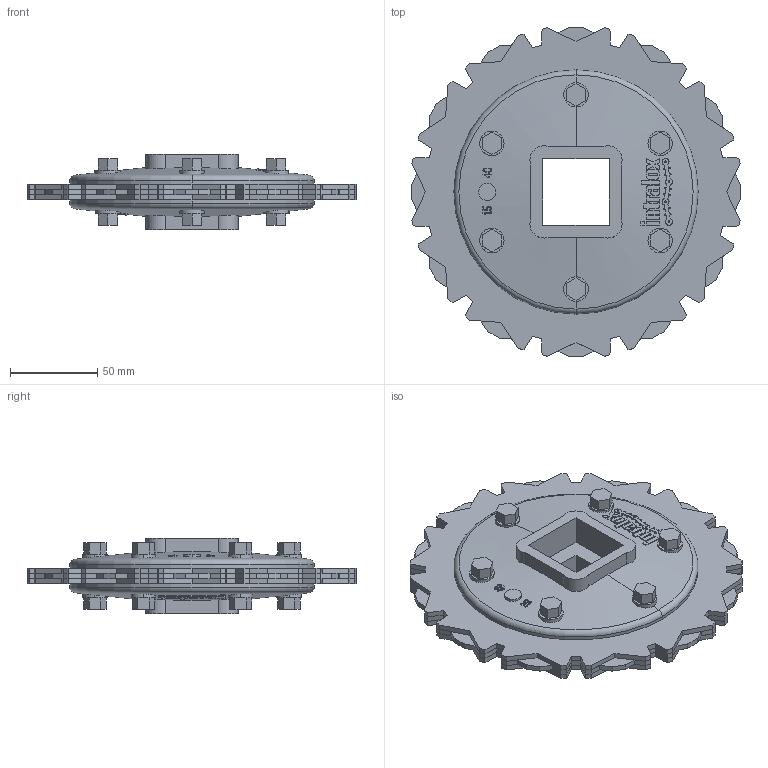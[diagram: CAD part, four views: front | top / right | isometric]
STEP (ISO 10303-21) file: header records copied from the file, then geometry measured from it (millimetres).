
FILE_DESCRIPTION((''),'2;1');
FILE_NAME('S800_SPL_METAL_AR_77X15_40_SQ_ASM','2008-12-12T',('jmumphre'),(''),'PRO/ENGINEER BY PARAMETRIC TECHNOLOGY CORPORATION, 2008150','PRO/ENGINEER BY PARAMETRIC TECHNOLOGY CORPORATION, 2008150','');
FILE_SCHEMA(('CONFIG_CONTROL_DESIGN'));
Length unit declared in the file: inch
Products named in the file (7): S800_TP_METAL_77X254_SQ_AF0; S800_TP_NONTRACK_77X254_SQ_AF0; S800_TP_NONTRACK_77X254_SQ_AF1; JOINING_PLATE_6X15_40_SQ_AF2; JOINING_PLATE_6X15_40_SQ_AF3; BOLTS_N_NUTS_4-376X0-990_AF2; S800_SPL_METAL_AR_77X15_40_SQ_ASM
Assembly tree (6 placements, depth 2):
  S800_SPL_METAL_AR_77X15_40_SQ_ASM
    S800_TP_METAL_77X254_SQ_AF0
    S800_TP_NONTRACK_77X254_SQ_AF0
    S800_TP_NONTRACK_77X254_SQ_AF1
    JOINING_PLATE_6X15_40_SQ_AF2
    JOINING_PLATE_6X15_40_SQ_AF3
    BOLTS_N_NUTS_4-376X0-990_AF2
Bounding box: 188.64 x 188.64 x 43.18 mm (x, y, z)
Volume: 420345.6 mm3; surface area: 219576.3 mm2
Topology: 11 solids, 11 shells, 1226 faces, 3400 edges, 2264 vertices
Faces by surface type: plane 884, cylinder 288, cone 50, torus 4
Entity records: 42634 total; most frequent: CARTESIAN_POINT 13315, ORIENTED_EDGE 6800, DIRECTION 4770, EDGE_CURVE 3400, VERTEX_POINT 2264, VECTOR 1900, LINE 1900, AXIS2_PLACEMENT_3D 1435
